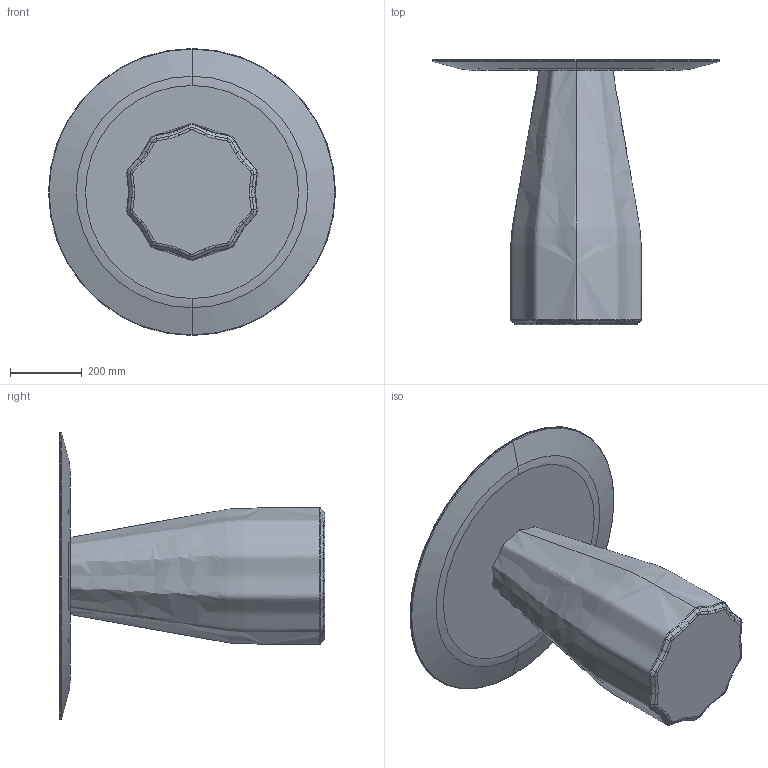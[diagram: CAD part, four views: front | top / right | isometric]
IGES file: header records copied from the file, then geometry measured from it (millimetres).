
Start section: SolidWorks IGES file using analytic representation for surfaces
Global section: file name: Z:\01-VICCARBE\VICCARBE TECNICO 2018\6.-Studio VCCB\Otros\Burin\Modelado\WEB\Nueva carpeta\BurinH74D80.IGS; native system: SolidWorks 2013; preprocessor: SolidWorks 2013; author: Usuario; date: 190219.125526; units: millimetre
Bounding box: 800 x 740 x 800 mm (x, y, z)
Volume: 68956606.1 mm3; surface area: 1878232 mm2
Topology: 2 solids, 2 shells, 136 faces, 348 edges, 216 vertices
Faces by surface type: bspline 122, revolution 10, plane 4
